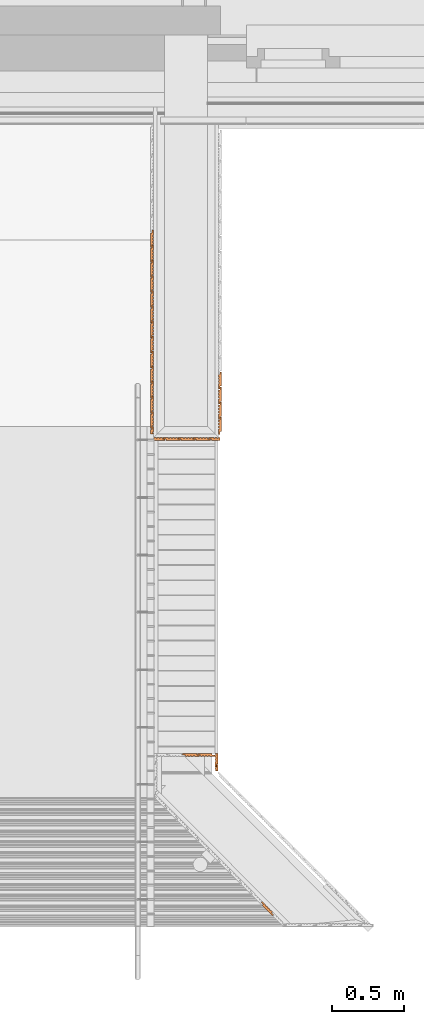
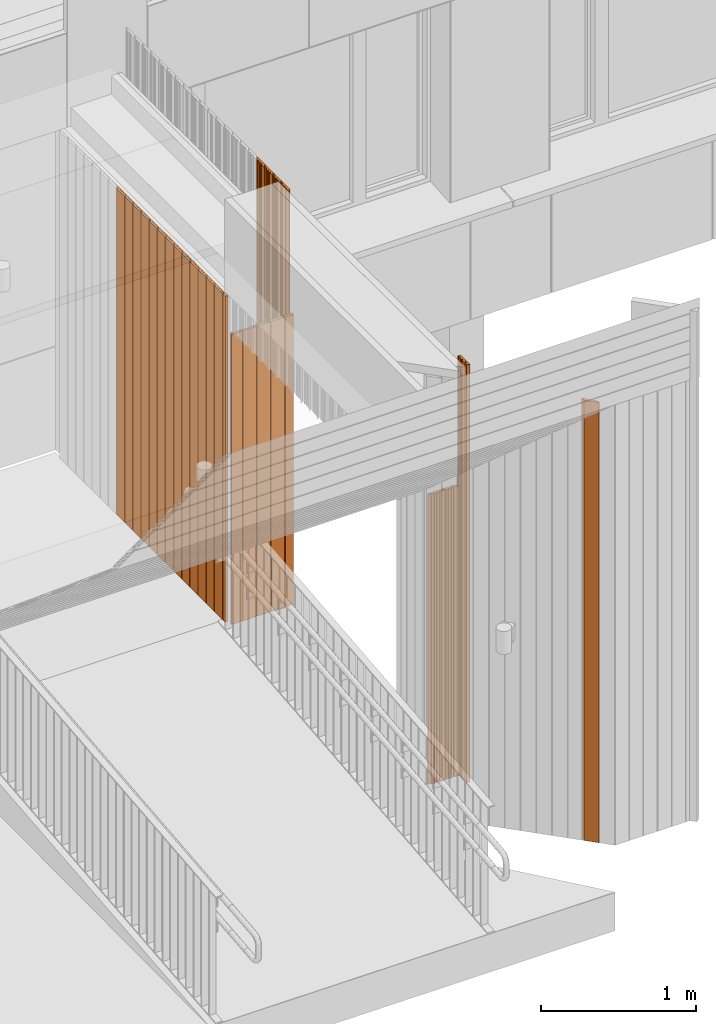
# One storey, part 348 of 418: 28 proxies.
"""IFC2X3 building model written with IfcOpenShell, lengths in millimetres."""

from ifc_helpers import new_model, entity, si_unit, converted_unit, derived_unit, money_unit, direction, frame, origin_with_axes, place, context, subcontext, project, spatial, polyline, outline, extrude, material, type_object, element, save


model = new_model("IFC2X3")

# Units and contexts
model_context = context("Model", 3, precision=0.01, world=origin_with_axes(), true_north=direction((0.0, 1.0)))
body_context = subcontext(model_context, "Body", "Model", "MODEL_VIEW")
ifc_project = project(units=[si_unit("LENGTHUNIT", "METRE", prefix="MILLI"), si_unit("AREAUNIT", "SQUARE_METRE"), si_unit("VOLUMEUNIT", "CUBIC_METRE"), converted_unit("PLANEANGLEUNIT", "DEGREE", entity("IfcPlaneAngleMeasure", 0.0174532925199), si_unit("PLANEANGLEUNIT", "RADIAN"), dimensions=[0, 0, 0, 0, 0, 0, 0]), si_unit("SOLIDANGLEUNIT", "STERADIAN"), money_unit("EUR"), converted_unit("TIMEUNIT", "Year", entity("IfcTimeMeasure", 31556926.0), si_unit("TIMEUNIT", "SECOND"), dimensions=[0, 0, 1, 0, 0, 0, 0]), si_unit("MASSUNIT", "GRAM", prefix="KILO"), si_unit("THERMODYNAMICTEMPERATUREUNIT", "DEGREE_CELSIUS"), si_unit("LUMINOUSINTENSITYUNIT", "LUMEN"), si_unit("ENERGYUNIT", "JOULE", prefix="MEGA"), derived_unit("THERMALCONDUCTANCEUNIT", [(si_unit("POWERUNIT", "WATT"), 1), (si_unit("LENGTHUNIT", "METRE"), -1), (si_unit("THERMODYNAMICTEMPERATUREUNIT", "KELVIN"), -1)]), derived_unit("SPECIFICHEATCAPACITYUNIT", [(si_unit("ENERGYUNIT", "JOULE"), 1), (si_unit("MASSUNIT", "GRAM", prefix="KILO"), -1), (si_unit("THERMODYNAMICTEMPERATUREUNIT", "KELVIN"), -1)]), derived_unit("MASSDENSITYUNIT", [(si_unit("MASSUNIT", "GRAM", prefix="KILO"), 1), (si_unit("VOLUMEUNIT", "CUBIC_METRE"), -1)])], contexts=[model_context])

# Site, building, storey
site_placement = place(None, origin_with_axes())
site = spatial("IfcSite", under=ifc_project, at=site_placement, Name="Paldiski mnt 245/1, Tallinn, Harjumaa", CompositionType="COMPLEX")
building_placement = place(site_placement, origin_with_axes())
building = spatial("IfcBuilding", under=site, at=building_placement, Name="RKAS Hoone üldnimetus (kasutust iseloomustav) -> IFC Project Manager -> SOLIBRI", CompositionType="ELEMENT")
storey_placement = place(building_placement, origin_with_axes())
storey = spatial("IfcBuildingStorey", under=building, at=storey_placement, Name="Esimene korrus", CompositionType="ELEMENT", Elevation=0.0)

# Proxies
ifc_material = material(Name="ET-01_Puit - Konstruktsioon")
building_element_proxy_type_1 = type_object("IfcBuildingElementProxyType", Name="ET-01_Puit - Konstruktsioon 3222", PredefinedType="NOTDEFINED")
proxy_1_placement = place(storey_placement, frame((-38334.5000007, -14970.2632272, 3221.56061477), z_axis=(0.0, 0.0, 1.0), x_axis=(1.0, 0.0, 0.0)))
element("IfcBuildingElementProxy", 1, at=proxy_1_placement, inside=storey, type_object=building_element_proxy_type_1, material=ifc_material, Name="Varikatus", context=body_context, shape_type="SweptSolid", body=[
    extrude(outline(polyline([(0.0, 0.0), (-3.20760307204e-07, 20.0000005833), (10.500001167, 20.0000004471), (10.5000010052, 120.000000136), (0.50000121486, 120.000000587), (0.500000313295, 100.000001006), (-10.4999994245, 100.000000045), (-10.4999997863, 85.423812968), (-3.50000027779, 85.4238127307), (-3.49999963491, 79.7831443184), (-10.5000001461, 79.7831433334), (-10.4999992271, 64.9546509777), (-3.49999971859, 64.9546507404), (-3.49999928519, 58.8277100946), (-10.4999987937, 58.8277103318), (-10.4999989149, 43.8885931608), (-3.49999940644, 43.8885929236), (-3.49999970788, 37.5260958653), (-10.5000002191, 37.5260948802), (-10.4999992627, 3.55871776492e-07), (0.0, 0.0)])), frame((0.0, 0.0, -3221.56061477), z_axis=(0.0, 0.0, 1.0), x_axis=(1.0, 0.0, 0.0)), (0.0, 0.0, 1.0), 3221.56061477),
])
proxy_2_placement = place(storey_placement, frame((-38334.5000007, -15075.2632272, 3221.56061477), z_axis=(0.0, 0.0, 1.0), x_axis=(1.0, 0.0, 0.0)))
element("IfcBuildingElementProxy", 2, at=proxy_2_placement, inside=storey, type_object=building_element_proxy_type_1, material=ifc_material, Name="Varikatus", context=body_context, shape_type="SweptSolid", body=[
    extrude(outline(polyline([(0.0, 0.0), (-3.20760307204e-07, 20.0000005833), (10.500001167, 20.0000004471), (10.5000010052, 120.000000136), (0.500001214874, 120.000000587), (0.500000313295, 100.000001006), (-10.4999994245, 100.000000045), (-10.4999997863, 85.423812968), (-3.5000002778, 85.4238127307), (-3.4999996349, 79.7831443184), (-10.5000001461, 79.7831433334), (-10.4999992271, 64.9546509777), (-3.49999971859, 64.9546507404), (-3.4999992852, 58.8277100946), (-10.4999987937, 58.8277103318), (-10.4999989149, 43.8885931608), (-3.49999940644, 43.8885929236), (-3.4999997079, 37.5260958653), (-10.5000002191, 37.5260948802), (-10.4999992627, 3.55873552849e-07), (0.0, 0.0)])), frame((0.0, 0.0, -3221.56061477), z_axis=(0.0, 0.0, 1.0), x_axis=(1.0, 0.0, 0.0)), (0.0, 0.0, 1.0), 3221.56061477),
])
proxy_3_placement = place(storey_placement, frame((-38334.5000007, -15180.2632272, 3221.56061477), z_axis=(0.0, 0.0, 1.0), x_axis=(1.0, 0.0, 0.0)))
element("IfcBuildingElementProxy", 3, at=proxy_3_placement, inside=storey, type_object=building_element_proxy_type_1, material=ifc_material, Name="Varikatus", context=body_context, shape_type="SweptSolid", body=[
    extrude(outline(polyline([(0.0, 0.0), (-3.20746096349e-07, 20.0000005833), (10.500001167, 20.0000004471), (10.5000010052, 120.000000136), (0.500001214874, 120.000000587), (0.500000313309, 100.000001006), (-10.4999994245, 100.000000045), (-10.4999997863, 85.423812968), (-3.50000027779, 85.4238127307), (-3.4999996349, 79.7831443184), (-10.5000001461, 79.7831433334), (-10.4999992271, 64.9546509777), (-3.49999971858, 64.9546507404), (-3.49999928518, 58.8277100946), (-10.4999987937, 58.8277103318), (-10.4999989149, 43.8885931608), (-3.49999940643, 43.8885929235), (-3.49999970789, 37.5260958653), (-10.5000002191, 37.5260948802), (-10.4999992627, 3.55875329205e-07), (0.0, 0.0)])), frame((0.0, 0.0, -3221.56061477), z_axis=(0.0, 0.0, 1.0), x_axis=(1.0, 0.0, 0.0)), (0.0, 0.0, 1.0), 3221.56061477),
])
proxy_4_placement = place(storey_placement, frame((-38334.5000007, -15285.2632272, 3221.56061477), z_axis=(0.0, 0.0, 1.0), x_axis=(1.0, 0.0, 0.0)))
element("IfcBuildingElementProxy", 4, at=proxy_4_placement, inside=storey, type_object=building_element_proxy_type_1, material=ifc_material, Name="Varikatus", context=body_context, shape_type="SweptSolid", body=[
    extrude(outline(polyline([(0.0, 0.0), (-3.20753201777e-07, 20.0000005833), (10.500001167, 20.0000004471), (10.5000010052, 120.000000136), (0.500001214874, 120.000000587), (0.500000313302, 100.000001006), (-10.4999994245, 100.000000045), (-10.4999997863, 85.423812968), (-3.50000027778, 85.4238127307), (-3.4999996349, 79.7831443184), (-10.5000001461, 79.7831433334), (-10.4999992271, 64.9546509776), (-3.49999971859, 64.9546507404), (-3.49999928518, 58.8277100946), (-10.4999987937, 58.8277103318), (-10.4999989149, 43.8885931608), (-3.49999940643, 43.8885929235), (-3.49999970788, 37.5260958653), (-10.5000002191, 37.5260948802), (-10.4999992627, 3.55864671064e-07), (0.0, 0.0)])), frame((0.0, 0.0, -3221.56061477), z_axis=(0.0, 0.0, 1.0), x_axis=(1.0, 0.0, 0.0)), (0.0, 0.0, 1.0), 3221.56061477),
])
building_element_proxy_type_2 = type_object("IfcBuildingElementProxyType", Name="ET-01_Puit - Konstruktsioon 2280", PredefinedType="NOTDEFINED")
proxy_5_placement = place(storey_placement, frame((-38519.8878125, -15316.5843015, 2280.0), z_axis=(0.0, 0.0, 1.0), x_axis=(1.0, 0.0, 0.0)))
element("IfcBuildingElementProxy", 5, at=proxy_5_placement, inside=storey, type_object=building_element_proxy_type_2, material=ifc_material, Name="Varikatus", context=body_context, shape_type="SweptSolid", body=[
    extrude(outline(polyline([(0.0, 0.0), (20.0000005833, 3.2075142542e-07), (20.0000004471, -10.500001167), (120.000000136, -10.5000010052), (120.000000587, -0.500001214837), (100.000001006, -0.500000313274), (100.000000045, 10.4999994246), (85.423812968, 10.4999997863), (85.4238127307, 3.50000027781), (79.7831443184, 3.49999963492), (79.7831433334, 10.5000001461), (64.9546509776, 10.4999992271), (64.9546507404, 3.4999997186), (58.8277100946, 3.4999992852), (58.8277103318, 10.4999987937), (43.8885931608, 10.4999989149), (43.8885929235, 3.49999940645), (37.5260958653, 3.4999997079), (37.5260948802, 10.5000002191), (3.55861118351e-07, 10.4999992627), (0.0, 0.0)])), frame((0.0, 0.0, -2280.0), z_axis=(0.0, 0.0, 1.0), x_axis=(1.0, 0.0, 0.0)), (0.0, 0.0, 1.0), 2280.0),
])
proxy_6_placement = place(storey_placement, frame((-38624.8878125, -15316.5843015, 2280.0), z_axis=(0.0, 0.0, 1.0), x_axis=(1.0, 0.0, 0.0)))
element("IfcBuildingElementProxy", 6, at=proxy_6_placement, inside=storey, type_object=building_element_proxy_type_2, material=ifc_material, Name="Varikatus", context=body_context, shape_type="SweptSolid", body=[
    extrude(outline(polyline([(0.0, 0.0), (20.0000005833, 3.20753201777e-07), (20.0000004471, -10.500001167), (120.000000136, -10.5000010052), (120.000000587, -0.500001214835), (100.000001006, -0.50000031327), (100.000000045, 10.4999994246), (85.423812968, 10.4999997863), (85.4238127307, 3.50000027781), (79.7831443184, 3.49999963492), (79.7831433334, 10.5000001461), (64.9546509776, 10.4999992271), (64.9546507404, 3.49999971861), (58.8277100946, 3.4999992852), (58.8277103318, 10.4999987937), (43.8885931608, 10.4999989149), (43.8885929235, 3.49999940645), (37.5260958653, 3.4999997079), (37.5260948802, 10.5000002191), (3.55861118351e-07, 10.4999992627), (0.0, 0.0)])), frame((0.0, 0.0, -2280.0), z_axis=(0.0, 0.0, 1.0), x_axis=(1.0, 0.0, 0.0)), (0.0, 0.0, 1.0), 2280.0),
])
proxy_7_placement = place(storey_placement, frame((-38729.8878125, -15316.5843015, 2280.0), z_axis=(0.0, 0.0, 1.0), x_axis=(1.0, 0.0, 0.0)))
element("IfcBuildingElementProxy", 7, at=proxy_7_placement, inside=storey, type_object=building_element_proxy_type_2, material=ifc_material, Name="Varikatus", context=body_context, shape_type="SweptSolid", body=[
    extrude(outline(polyline([(0.0, 0.0), (20.0000005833, 3.20749649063e-07), (20.0000004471, -10.500001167), (120.000000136, -10.5000010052), (120.000000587, -0.500001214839), (100.000001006, -0.500000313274), (100.000000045, 10.4999994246), (85.423812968, 10.4999997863), (85.4238127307, 3.50000027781), (79.7831443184, 3.49999963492), (79.7831433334, 10.5000001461), (64.9546509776, 10.4999992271), (64.9546507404, 3.4999997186), (58.8277100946, 3.4999992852), (58.8277103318, 10.4999987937), (43.8885931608, 10.4999989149), (43.8885929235, 3.49999940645), (37.5260958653, 3.4999997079), (37.5260948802, 10.5000002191), (3.55868223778e-07, 10.4999992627), (0.0, 0.0)])), frame((0.0, 0.0, -2280.0), z_axis=(0.0, 0.0, 1.0), x_axis=(1.0, 0.0, 0.0)), (0.0, 0.0, 1.0), 2280.0),
])
proxy_8_placement = place(storey_placement, frame((-38714.8878129, -15327.0843032, 2280.0), z_axis=(0.0, 0.0, 1.0), x_axis=(1.0, 0.0, 0.0)))
element("IfcBuildingElementProxy", 8, at=proxy_8_placement, inside=storey, type_object=building_element_proxy_type_2, material=ifc_material, Name="Varikatus", context=body_context, shape_type="SweptSolid", body=[
    extrude(outline(polyline([(0.0, 0.0), (9.79717640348e-07, 10.0000005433), (-19.9999984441, 10.0000011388), (-19.9999995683, 21.0000015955), (-34.5761863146, 21.0000012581), (-34.5761868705, 14.0000018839), (-40.2168554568, 14.0000017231), (-40.2168565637, 21.0000024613), (-55.0453481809, 21.0000004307), (-55.0453487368, 14.0000010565), (-61.1722889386, 14.0000006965), (-61.1722883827, 21.0000000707), (-76.1114062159, 21.0000016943), (-76.1114066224, 14.0000008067), (-80.9999998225, 14.0000017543), (-80.9999999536, 8.10455702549e-07), (0.0, 0.0)])), frame((0.0, 0.0, -2280.0), z_axis=(0.0, 0.0, 1.0), x_axis=(1.0, 0.0, 0.0)), (0.0, 0.0, 1.0), 2280.0),
])
proxy_9_placement = place(storey_placement, frame((-38475.0000002, -17512.4093649, 2280.0), z_axis=(0.0, 0.0, 1.0), x_axis=(1.0, 0.0, 0.0)))
element("IfcBuildingElementProxy", 9, at=proxy_9_placement, inside=storey, type_object=building_element_proxy_type_2, material=ifc_material, Name="Varikatus", context=body_context, shape_type="SweptSolid", body=[
    extrude(outline(polyline([(0.0, 0.0), (-20.0000005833, -3.20753201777e-07), (-20.0000004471, 10.500001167), (-120.000000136, 10.5000010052), (-120.000000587, 0.500001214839), (-100.000001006, 0.500000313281), (-100.000000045, -10.4999994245), (-85.423812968, -10.4999997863), (-85.4238127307, -3.5000002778), (-79.7831443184, -3.49999963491), (-79.7831433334, -10.5000001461), (-64.9546509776, -10.4999992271), (-64.9546507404, -3.49999971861), (-58.8277100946, -3.4999992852), (-58.8277103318, -10.4999987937), (-43.8885931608, -10.4999989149), (-43.8885929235, -3.49999940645), (-37.5260958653, -3.4999997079), (-37.5260948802, -10.5000002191), (-3.55861118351e-07, -10.4999992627), (0.0, 0.0)])), frame((0.0, 0.0, -2280.0), z_axis=(0.0, 0.0, 1.0), x_axis=(1.0, 0.0, 0.0)), (0.0, 0.0, 1.0), 2280.0),
])
proxy_10_placement = place(storey_placement, frame((-38370.0000002, -17512.4093649, 2280.0), z_axis=(0.0, 0.0, 1.0), x_axis=(1.0, 0.0, 0.0)))
element("IfcBuildingElementProxy", 10, at=proxy_10_placement, inside=storey, type_object=building_element_proxy_type_2, material=ifc_material, Name="Varikatus", context=body_context, shape_type="SweptSolid", body=[
    extrude(outline(polyline([(0.0, 0.0), (-20.0000005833, -3.20746096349e-07), (-20.0000004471, 10.500001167), (-120.000000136, 10.5000010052), (-120.000000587, 0.500001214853), (-100.000001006, 0.500000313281), (-100.000000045, -10.4999994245), (-85.423812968, -10.4999997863), (-85.4238127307, -3.5000002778), (-79.7831443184, -3.49999963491), (-79.7831433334, -10.5000001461), (-64.9546509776, -10.4999992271), (-64.9546507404, -3.4999997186), (-58.8277100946, -3.4999992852), (-58.8277103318, -10.4999987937), (-43.8885931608, -10.4999989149), (-43.8885929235, -3.49999940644), (-37.5260958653, -3.49999970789), (-37.5260948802, -10.5000002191), (-3.55861118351e-07, -10.4999992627), (0.0, 0.0)])), frame((0.0, 0.0, -2280.0), z_axis=(0.0, 0.0, 1.0), x_axis=(1.0, 0.0, 0.0)), (0.0, 0.0, 1.0), 2280.0),
])
proxy_11_placement = place(storey_placement, frame((-38412.4439623, -15316.5843015, 2280.0), z_axis=(0.0, 0.0, 1.0), x_axis=(1.0, 0.0, 0.0)))
element("IfcBuildingElementProxy", 11, at=proxy_11_placement, inside=storey, type_object=building_element_proxy_type_2, material=ifc_material, Name="Varikatus", context=body_context, shape_type="SweptSolid", body=[
    extrude(outline(polyline([(0.0, 0.0), (20.0000005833, 3.2075142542e-07), (20.0000004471, -10.500001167), (79.7831462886, -10.5000010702), (79.7831433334, 10.5000001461), (64.9546509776, 10.4999992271), (64.9546507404, 3.4999997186), (58.8277100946, 3.4999992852), (58.8277103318, 10.4999987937), (43.8885931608, 10.4999989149), (43.8885929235, 3.49999940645), (37.5260958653, 3.4999997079), (37.5260948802, 10.5000002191), (3.55861118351e-07, 10.4999992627), (0.0, 0.0)])), frame((0.0, 0.0, -2280.0), z_axis=(0.0, 0.0, 1.0), x_axis=(1.0, 0.0, 0.0)), (0.0, 0.0, 1.0), 2280.0),
])
building_element_proxy_type_3 = type_object("IfcBuildingElementProxyType", Name="ET-01_Puit - Konstruktsioon 2560", PredefinedType="NOTDEFINED")
proxy_12_placement = place(storey_placement, frame((-38805.4999993, -13865.0843007, 2560.10177239), z_axis=(0.0, 0.0, 1.0), x_axis=(1.0, 0.0, 0.0)))
element("IfcBuildingElementProxy", 12, at=proxy_12_placement, inside=storey, type_object=building_element_proxy_type_3, material=ifc_material, Name="Varikatus", context=body_context, shape_type="SweptSolid", body=[
    extrude(outline(polyline([(0.0, 0.0), (3.20760307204e-07, -20.0000005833), (-10.500001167, -20.0000004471), (-10.5000010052, -120.000000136), (-0.500001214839, -120.000000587), (-0.500000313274, -100.000001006), (10.4999994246, -100.000000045), (10.4999997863, -85.423812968), (3.50000027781, -85.4238127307), (3.49999963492, -79.7831443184), (10.5000001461, -79.7831433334), (10.4999992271, -64.9546509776), (3.49999971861, -64.9546507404), (3.4999992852, -58.8277100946), (10.4999987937, -58.8277103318), (10.4999989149, -43.8885931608), (3.49999940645, -43.8885929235), (3.4999997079, -37.5260958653), (10.5000002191, -37.5260948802), (10.4999992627, -3.55868223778e-07), (0.0, 0.0)])), frame((0.0, 0.0, -2560.10177239), z_axis=(0.0, 0.0, 1.0), x_axis=(1.0, 0.0, 0.0)), (0.0, 0.0, 1.0), 2560.10177239),
])
proxy_13_placement = place(storey_placement, frame((-38805.4999993, -13970.0843007, 2560.10177239), z_axis=(0.0, 0.0, 1.0), x_axis=(1.0, 0.0, 0.0)))
element("IfcBuildingElementProxy", 13, at=proxy_13_placement, inside=storey, type_object=building_element_proxy_type_3, material=ifc_material, Name="Varikatus", context=body_context, shape_type="SweptSolid", body=[
    extrude(outline(polyline([(0.0, 0.0), (3.20760307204e-07, -20.0000005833), (-10.500001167, -20.0000004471), (-10.5000010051, -120.000000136), (-0.500001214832, -120.000000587), (-0.500000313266, -100.000001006), (10.4999994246, -100.000000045), (10.4999997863, -85.423812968), (3.50000027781, -85.4238127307), (3.49999963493, -79.7831443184), (10.5000001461, -79.7831433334), (10.4999992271, -64.9546509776), (3.49999971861, -64.9546507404), (3.49999928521, -58.8277100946), (10.4999987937, -58.8277103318), (10.499998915, -43.8885931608), (3.49999940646, -43.8885929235), (3.49999970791, -37.5260958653), (10.5000002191, -37.5260948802), (10.4999992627, -3.55868223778e-07), (0.0, 0.0)])), frame((0.0, 0.0, -2560.10177239), z_axis=(0.0, 0.0, 1.0), x_axis=(1.0, 0.0, 0.0)), (0.0, 0.0, 1.0), 2560.10177239),
])
proxy_14_placement = place(storey_placement, frame((-38805.4999993, -14075.0843007, 2560.10177239), z_axis=(0.0, 0.0, 1.0), x_axis=(1.0, 0.0, 0.0)))
element("IfcBuildingElementProxy", 14, at=proxy_14_placement, inside=storey, type_object=building_element_proxy_type_3, material=ifc_material, Name="Varikatus", context=body_context, shape_type="SweptSolid", body=[
    extrude(outline(polyline([(0.0, 0.0), (3.20760307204e-07, -20.0000005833), (-10.500001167, -20.0000004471), (-10.5000010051, -120.000000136), (-0.500001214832, -120.000000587), (-0.500000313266, -100.000001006), (10.4999994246, -100.000000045), (10.4999997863, -85.423812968), (3.50000027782, -85.4238127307), (3.49999963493, -79.7831443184), (10.5000001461, -79.7831433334), (10.4999992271, -64.9546509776), (3.49999971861, -64.9546507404), (3.49999928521, -58.8277100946), (10.4999987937, -58.8277103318), (10.499998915, -43.8885931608), (3.49999940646, -43.8885929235), (3.49999970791, -37.5260958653), (10.5000002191, -37.5260948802), (10.4999992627, -3.55864671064e-07), (0.0, 0.0)])), frame((0.0, 0.0, -2560.10177239), z_axis=(0.0, 0.0, 1.0), x_axis=(1.0, 0.0, 0.0)), (0.0, 0.0, 1.0), 2560.10177239),
])
proxy_15_placement = place(storey_placement, frame((-38805.4999993, -14180.0843007, 2560.10177239), z_axis=(0.0, 0.0, 1.0), x_axis=(1.0, 0.0, 0.0)))
element("IfcBuildingElementProxy", 15, at=proxy_15_placement, inside=storey, type_object=building_element_proxy_type_3, material=ifc_material, Name="Varikatus", context=body_context, shape_type="SweptSolid", body=[
    extrude(outline(polyline([(0.0, 0.0), (3.20746096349e-07, -20.0000005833), (-10.500001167, -20.0000004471), (-10.5000010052, -120.000000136), (-0.500001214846, -120.000000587), (-0.500000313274, -100.000001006), (10.4999994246, -100.000000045), (10.4999997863, -85.423812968), (3.5000002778, -85.4238127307), (3.49999963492, -79.7831443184), (10.5000001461, -79.7831433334), (10.4999992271, -64.9546509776), (3.49999971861, -64.9546507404), (3.4999992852, -58.8277100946), (10.4999987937, -58.8277103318), (10.4999989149, -43.8885931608), (3.49999940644, -43.8885929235), (3.49999970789, -37.5260958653), (10.5000002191, -37.5260948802), (10.4999992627, -3.55864671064e-07), (0.0, 0.0)])), frame((0.0, 0.0, -2560.10177239), z_axis=(0.0, 0.0, 1.0), x_axis=(1.0, 0.0, 0.0)), (0.0, 0.0, 1.0), 2560.10177239),
])
proxy_16_placement = place(storey_placement, frame((-38805.4999993, -14285.0843007, 2560.10177239), z_axis=(0.0, 0.0, 1.0), x_axis=(1.0, 0.0, 0.0)))
element("IfcBuildingElementProxy", 16, at=proxy_16_placement, inside=storey, type_object=building_element_proxy_type_3, material=ifc_material, Name="Varikatus", context=body_context, shape_type="SweptSolid", body=[
    extrude(outline(polyline([(0.0, 0.0), (3.20753201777e-07, -20.0000005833), (-10.500001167, -20.0000004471), (-10.5000010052, -120.000000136), (-0.500001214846, -120.000000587), (-0.500000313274, -100.000001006), (10.4999994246, -100.000000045), (10.4999997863, -85.423812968), (3.50000027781, -85.4238127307), (3.49999963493, -79.7831443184), (10.5000001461, -79.7831433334), (10.4999992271, -64.9546509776), (3.4999997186, -64.9546507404), (3.4999992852, -58.8277100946), (10.4999987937, -58.8277103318), (10.4999989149, -43.8885931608), (3.49999940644, -43.8885929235), (3.4999997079, -37.5260958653), (10.5000002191, -37.5260948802), (10.4999992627, -3.55868223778e-07), (0.0, 0.0)])), frame((0.0, 0.0, -2560.10177239), z_axis=(0.0, 0.0, 1.0), x_axis=(1.0, 0.0, 0.0)), (0.0, 0.0, 1.0), 2560.10177239),
])
proxy_17_placement = place(storey_placement, frame((-38805.4999993, -14390.0843007, 2560.10177239), z_axis=(0.0, 0.0, 1.0), x_axis=(1.0, 0.0, 0.0)))
element("IfcBuildingElementProxy", 17, at=proxy_17_placement, inside=storey, type_object=building_element_proxy_type_3, material=ifc_material, Name="Varikatus", context=body_context, shape_type="SweptSolid", body=[
    extrude(outline(polyline([(0.0, 0.0), (3.20753201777e-07, -20.0000005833), (-10.500001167, -20.0000004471), (-10.5000010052, -120.000000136), (-0.500001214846, -120.000000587), (-0.500000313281, -100.000001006), (10.4999994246, -100.000000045), (10.4999997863, -85.423812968), (3.50000027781, -85.4238127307), (3.49999963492, -79.7831443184), (10.5000001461, -79.7831433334), (10.4999992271, -64.9546509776), (3.4999997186, -64.9546507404), (3.4999992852, -58.8277100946), (10.4999987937, -58.8277103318), (10.4999989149, -43.8885931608), (3.49999940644, -43.8885929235), (3.4999997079, -37.5260958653), (10.5000002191, -37.5260948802), (10.4999992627, -3.55866447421e-07), (0.0, 0.0)])), frame((0.0, 0.0, -2560.10177239), z_axis=(0.0, 0.0, 1.0), x_axis=(1.0, 0.0, 0.0)), (0.0, 0.0, 1.0), 2560.10177239),
])
proxy_18_placement = place(storey_placement, frame((-38805.4999993, -14495.0843007, 2560.10177239), z_axis=(0.0, 0.0, 1.0), x_axis=(1.0, 0.0, 0.0)))
element("IfcBuildingElementProxy", 18, at=proxy_18_placement, inside=storey, type_object=building_element_proxy_type_3, material=ifc_material, Name="Varikatus", context=body_context, shape_type="SweptSolid", body=[
    extrude(outline(polyline([(0.0, 0.0), (3.20753201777e-07, -20.0000005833), (-10.500001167, -20.0000004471), (-10.5000010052, -120.000000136), (-0.500001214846, -120.000000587), (-0.500000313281, -100.000001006), (10.4999994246, -100.000000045), (10.4999997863, -85.423812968), (3.50000027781, -85.4238127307), (3.49999963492, -79.7831443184), (10.5000001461, -79.7831433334), (10.4999992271, -64.9546509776), (3.4999997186, -64.9546507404), (3.4999992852, -58.8277100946), (10.4999987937, -58.8277103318), (10.4999989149, -43.8885931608), (3.49999940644, -43.8885929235), (3.4999997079, -37.5260958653), (10.5000002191, -37.5260948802), (10.4999992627, -3.55868223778e-07), (0.0, 0.0)])), frame((0.0, 0.0, -2560.10177239), z_axis=(0.0, 0.0, 1.0), x_axis=(1.0, 0.0, 0.0)), (0.0, 0.0, 1.0), 2560.10177239),
])
proxy_19_placement = place(storey_placement, frame((-38805.4999993, -14600.0843007, 2560.10177239), z_axis=(0.0, 0.0, 1.0), x_axis=(1.0, 0.0, 0.0)))
element("IfcBuildingElementProxy", 19, at=proxy_19_placement, inside=storey, type_object=building_element_proxy_type_3, material=ifc_material, Name="Varikatus", context=body_context, shape_type="SweptSolid", body=[
    extrude(outline(polyline([(0.0, 0.0), (3.20760307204e-07, -20.0000005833), (-10.500001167, -20.0000004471), (-10.5000010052, -120.000000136), (-0.500001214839, -120.000000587), (-0.500000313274, -100.000001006), (10.4999994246, -100.000000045), (10.4999997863, -85.423812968), (3.50000027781, -85.4238127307), (3.49999963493, -79.7831443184), (10.5000001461, -79.7831433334), (10.4999992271, -64.9546509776), (3.49999971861, -64.9546507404), (3.4999992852, -58.8277100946), (10.4999987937, -58.8277103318), (10.4999989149, -43.8885931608), (3.49999940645, -43.8885929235), (3.4999997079, -37.5260958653), (10.5000002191, -37.5260948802), (10.4999992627, -3.55868223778e-07), (0.0, 0.0)])), frame((0.0, 0.0, -2560.10177239), z_axis=(0.0, 0.0, 1.0), x_axis=(1.0, 0.0, 0.0)), (0.0, 0.0, 1.0), 2560.10177239),
])
proxy_20_placement = place(storey_placement, frame((-38805.4999993, -14705.0843007, 2560.10177239), z_axis=(0.0, 0.0, 1.0), x_axis=(1.0, 0.0, 0.0)))
element("IfcBuildingElementProxy", 20, at=proxy_20_placement, inside=storey, type_object=building_element_proxy_type_3, material=ifc_material, Name="Varikatus", context=body_context, shape_type="SweptSolid", body=[
    extrude(outline(polyline([(0.0, 0.0), (3.20753201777e-07, -20.0000005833), (-10.500001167, -20.0000004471), (-10.5000010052, -120.000000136), (-0.500001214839, -120.000000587), (-0.500000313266, -100.000001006), (10.4999994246, -100.000000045), (10.4999997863, -85.423812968), (3.50000027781, -85.4238127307), (3.49999963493, -79.7831443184), (10.5000001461, -79.7831433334), (10.4999992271, -64.9546509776), (3.49999971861, -64.9546507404), (3.49999928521, -58.8277100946), (10.4999987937, -58.8277103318), (10.4999989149, -43.8885931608), (3.49999940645, -43.8885929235), (3.49999970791, -37.5260958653), (10.5000002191, -37.5260948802), (10.4999992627, -3.55864671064e-07), (0.0, 0.0)])), frame((0.0, 0.0, -2560.10177239), z_axis=(0.0, 0.0, 1.0), x_axis=(1.0, 0.0, 0.0)), (0.0, 0.0, 1.0), 2560.10177239),
])
proxy_21_placement = place(storey_placement, frame((-38805.4999993, -14810.0843007, 2560.10177239), z_axis=(0.0, 0.0, 1.0), x_axis=(1.0, 0.0, 0.0)))
element("IfcBuildingElementProxy", 21, at=proxy_21_placement, inside=storey, type_object=building_element_proxy_type_3, material=ifc_material, Name="Varikatus", context=body_context, shape_type="SweptSolid", body=[
    extrude(outline(polyline([(0.0, 0.0), (3.20753201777e-07, -20.0000005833), (-10.500001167, -20.0000004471), (-10.5000010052, -120.000000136), (-0.500001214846, -120.000000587), (-0.500000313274, -100.000001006), (10.4999994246, -100.000000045), (10.4999997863, -85.423812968), (3.50000027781, -85.4238127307), (3.49999963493, -79.7831443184), (10.5000001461, -79.7831433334), (10.4999992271, -64.9546509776), (3.49999971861, -64.9546507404), (3.4999992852, -58.8277100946), (10.4999987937, -58.8277103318), (10.4999989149, -43.8885931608), (3.49999940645, -43.8885929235), (3.4999997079, -37.5260958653), (10.5000002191, -37.5260948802), (10.4999992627, -3.55864671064e-07), (0.0, 0.0)])), frame((0.0, 0.0, -2560.10177239), z_axis=(0.0, 0.0, 1.0), x_axis=(1.0, 0.0, 0.0)), (0.0, 0.0, 1.0), 2560.10177239),
])
proxy_22_placement = place(storey_placement, frame((-38805.4999993, -14915.0843007, 2560.10177239), z_axis=(0.0, 0.0, 1.0), x_axis=(1.0, 0.0, 0.0)))
element("IfcBuildingElementProxy", 22, at=proxy_22_placement, inside=storey, type_object=building_element_proxy_type_3, material=ifc_material, Name="Varikatus", context=body_context, shape_type="SweptSolid", body=[
    extrude(outline(polyline([(0.0, 0.0), (3.20753201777e-07, -20.0000005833), (-10.500001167, -20.0000004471), (-10.5000010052, -120.000000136), (-0.500001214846, -120.000000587), (-0.500000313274, -100.000001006), (10.4999994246, -100.000000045), (10.4999997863, -85.423812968), (3.50000027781, -85.4238127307), (3.49999963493, -79.7831443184), (10.5000001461, -79.7831433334), (10.4999992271, -64.9546509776), (3.49999971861, -64.9546507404), (3.4999992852, -58.8277100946), (10.4999987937, -58.8277103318), (10.4999989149, -43.8885931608), (3.49999940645, -43.8885929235), (3.4999997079, -37.5260958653), (10.5000002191, -37.5260948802), (10.4999992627, -3.55866447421e-07), (0.0, 0.0)])), frame((0.0, 0.0, -2560.10177239), z_axis=(0.0, 0.0, 1.0), x_axis=(1.0, 0.0, 0.0)), (0.0, 0.0, 1.0), 2560.10177239),
])
proxy_23_placement = place(storey_placement, frame((-38805.4999993, -15020.0843007, 2560.10177239), z_axis=(0.0, 0.0, 1.0), x_axis=(1.0, 0.0, 0.0)))
element("IfcBuildingElementProxy", 23, at=proxy_23_placement, inside=storey, type_object=building_element_proxy_type_3, material=ifc_material, Name="Varikatus", context=body_context, shape_type="SweptSolid", body=[
    extrude(outline(polyline([(0.0, 0.0), (3.20753201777e-07, -20.0000005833), (-10.500001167, -20.0000004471), (-10.5000010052, -120.000000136), (-0.500001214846, -120.000000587), (-0.500000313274, -100.000001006), (10.4999994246, -100.000000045), (10.4999997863, -85.423812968), (3.50000027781, -85.4238127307), (3.49999963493, -79.7831443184), (10.5000001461, -79.7831433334), (10.4999992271, -64.9546509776), (3.4999997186, -64.9546507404), (3.4999992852, -58.8277100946), (10.4999987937, -58.8277103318), (10.4999989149, -43.8885931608), (3.49999940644, -43.8885929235), (3.4999997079, -37.5260958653), (10.5000002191, -37.5260948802), (10.4999992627, -3.55868223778e-07), (0.0, 0.0)])), frame((0.0, 0.0, -2560.10177239), z_axis=(0.0, 0.0, 1.0), x_axis=(1.0, 0.0, 0.0)), (0.0, 0.0, 1.0), 2560.10177239),
])
proxy_24_placement = place(storey_placement, frame((-38805.4999993, -15125.0843007, 2560.10177239), z_axis=(0.0, 0.0, 1.0), x_axis=(1.0, 0.0, 0.0)))
element("IfcBuildingElementProxy", 24, at=proxy_24_placement, inside=storey, type_object=building_element_proxy_type_3, material=ifc_material, Name="Varikatus", context=body_context, shape_type="SweptSolid", body=[
    extrude(outline(polyline([(0.0, 0.0), (3.20753201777e-07, -20.0000005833), (-10.500001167, -20.0000004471), (-10.5000010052, -120.000000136), (-0.500001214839, -120.000000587), (-0.500000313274, -100.000001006), (10.4999994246, -100.000000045), (10.4999997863, -85.423812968), (3.50000027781, -85.4238127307), (3.49999963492, -79.7831443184), (10.5000001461, -79.7831433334), (10.4999992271, -64.9546509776), (3.49999971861, -64.9546507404), (3.4999992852, -58.8277100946), (10.4999987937, -58.8277103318), (10.4999989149, -43.8885931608), (3.49999940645, -43.8885929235), (3.4999997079, -37.5260958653), (10.5000002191, -37.5260948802), (10.4999992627, -3.55864671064e-07), (0.0, 0.0)])), frame((0.0, 0.0, -2560.10177239), z_axis=(0.0, 0.0, 1.0), x_axis=(1.0, 0.0, 0.0)), (0.0, 0.0, 1.0), 2560.10177239),
])
proxy_25_placement = place(storey_placement, frame((-38805.4999993, -15231.6340141, 2560.10177239), z_axis=(0.0, 0.0, 1.0), x_axis=(1.0, 0.0, 0.0)))
element("IfcBuildingElementProxy", 25, at=proxy_25_placement, inside=storey, type_object=building_element_proxy_type_3, material=ifc_material, Name="Varikatus", context=body_context, shape_type="SweptSolid", body=[
    extrude(outline(polyline([(0.0, 0.0), (3.20753201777e-07, -20.0000005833), (-10.500001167, -20.0000004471), (-10.5000011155, -51.8210747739), (10.4999988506, -51.8210747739), (10.4999989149, -43.8885931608), (3.49999940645, -43.8885929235), (3.4999997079, -37.5260958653), (10.5000002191, -37.5260948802), (10.4999992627, -3.55864671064e-07), (0.0, 0.0)])), frame((0.0, 0.0, -2560.10177239), z_axis=(0.0, 0.0, 1.0), x_axis=(1.0, 0.0, 0.0)), (0.0, 0.0, 1.0), 2560.10177239),
])
building_element_proxy_type_4 = type_object("IfcBuildingElementProxyType", Name="ET-01_Puit - Konstruktsioon 3284", PredefinedType="NOTDEFINED")
proxy_26_placement = place(storey_placement, frame((-38359.500001, -17595.2632272, 3284.10177239), z_axis=(0.0, 0.0, 1.0), x_axis=(1.0, 0.0, 0.0)))
element("IfcBuildingElementProxy", 26, at=proxy_26_placement, inside=storey, type_object=building_element_proxy_type_4, material=ifc_material, Name="Varikatus", context=body_context, shape_type="SweptSolid", body=[
    extrude(outline(polyline([(0.0, 0.0), (-3.20753201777e-07, 20.0000005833), (10.500001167, 20.0000004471), (10.5000010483, 93.353870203), (-10.4999995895, 93.353870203), (-10.4999997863, 85.423812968), (-3.50000027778, 85.4238127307), (-3.4999996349, 79.7831443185), (-10.5000001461, 79.7831433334), (-10.4999992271, 64.9546509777), (-3.49999971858, 64.9546507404), (-3.4999992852, 58.8277100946), (-10.4999987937, 58.8277103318), (-10.4999989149, 43.8885931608), (-3.49999940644, 43.8885929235), (-3.49999970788, 37.5260958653), (-10.5000002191, 37.5260948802), (-10.4999992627, 3.55871776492e-07), (0.0, 0.0)])), frame((0.0, 0.0, -3284.10177239), z_axis=(0.0, 0.0, 1.0), x_axis=(1.0, 0.0, 0.0)), (0.0, 0.0, 1.0), 3284.10177239),
])
proxy_27_placement = place(storey_placement, frame((-38348.9999998, -17622.6159153, 3284.10177239), z_axis=(0.0, 0.0, 1.0), x_axis=(1.0, 0.0, 0.0)))
element("IfcBuildingElementProxy", 27, at=proxy_27_placement, inside=storey, type_object=building_element_proxy_type_4, material=ifc_material, Name="Varikatus", context=body_context, shape_type="SweptSolid", body=[
    extrude(outline(polyline([(0.0, 0.0), (-3.2297720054e-07, 42.3526882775), (-10.0000000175, 42.3526888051), (-10.0000010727, 22.3526894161), (-21.0000007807, 22.3526883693), (-21.000000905, 7.77650099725), (-14.0000013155, 7.77650099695), (-14.0000008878, 2.13583280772), (-21.0000017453, 2.13583176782), (-20.9999999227, 1.14823706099e-07), (0.0, 0.0)])), frame((0.0, 0.0, -3284.10177239), z_axis=(0.0, 0.0, 1.0), x_axis=(1.0, 0.0, 0.0)), (0.0, 0.0, 1.0), 3284.10177239),
])
building_element_proxy_type_5 = type_object("IfcBuildingElementProxyType", Name="ET-01_Puit - Konstruktsioon 3460", PredefinedType="NOTDEFINED")
proxy_28_placement = place(storey_placement, frame((-38047.3938645, -18536.5608835, 3459.91760543), z_axis=(0.0, 0.0, 1.0), x_axis=(1.0, 0.0, 0.0)))
element("IfcBuildingElementProxy", 28, at=proxy_28_placement, inside=storey, type_object=building_element_proxy_type_5, material=ifc_material, Name="Varikatus", context=body_context, shape_type="SweptSolid", body=[
    extrude(outline(polyline([(0.0, 0.0), (14.1238329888, -14.160415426), (6.68961383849, -21.5754283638), (77.3087754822, -92.3775042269), (84.3889832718, -85.3155885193), (70.2651518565, -71.15517294), (78.0533793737, -63.3870646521), (67.7597985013, -53.0668213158), (62.8036533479, -58.0101621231), (58.820260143, -54.0164522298), (63.7764051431, -49.073109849), (53.3046474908, -38.5742300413), (48.3485023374, -43.5175708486), (44.0217079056, -39.1795699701), (48.977853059, -34.2362291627), (38.427973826, -23.6590239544), (33.4718286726, -28.6023647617), (28.9786867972, -24.0975845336), (33.9348317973, -19.1542421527), (7.43421773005, 7.41501121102), (0.0, 0.0)])), frame((0.0, 0.0, -3459.91760543), z_axis=(0.0, 0.0, 1.0), x_axis=(1.0, 0.0, 0.0)), (0.0, 0.0, 1.0), 3459.91760543),
])

save(model, "model.ifc")
